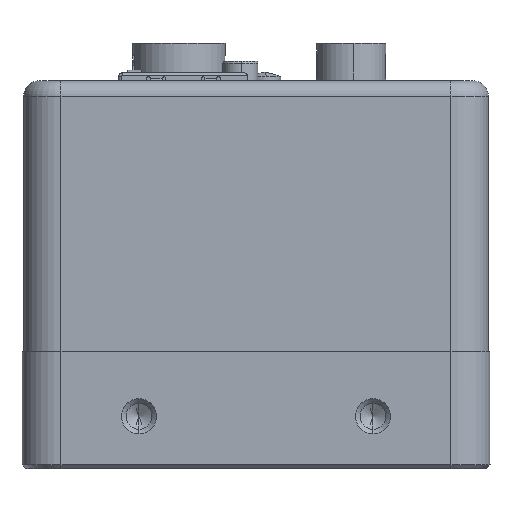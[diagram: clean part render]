
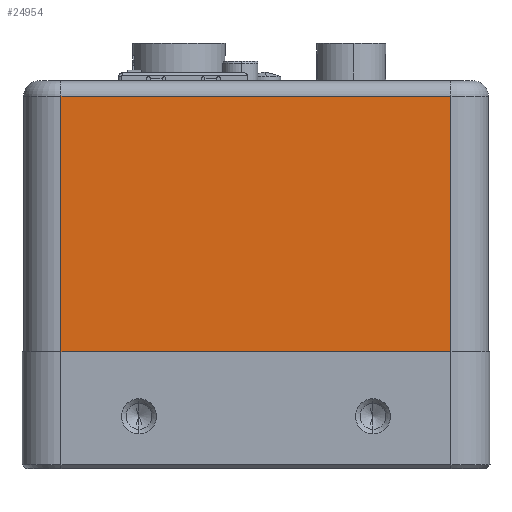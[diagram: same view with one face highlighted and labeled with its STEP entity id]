
A CAD part, left-side view. The second image highlights one B-rep face of the part: STEP entity #24954.
In plain terms, the highlighted planar face has unit normal (-1, 0, 0).
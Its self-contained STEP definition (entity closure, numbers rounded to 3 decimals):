
#512 = DIRECTION ( 'NONE',  ( 0., 0., 1. ) ) ;
#1231 = PLANE ( 'NONE',  #37004 ) ;
#3538 = LINE ( 'NONE', #40587, #37722 ) ;
#4587 = DIRECTION ( 'NONE',  ( 0., 0., -1. ) ) ;
#5509 = EDGE_CURVE ( 'NONE', #41247, #9227, #3538, .T. ) ;
#5988 = CARTESIAN_POINT ( 'NONE',  ( -27.511, 18.557, 29.652 ) ) ;
#7371 = CARTESIAN_POINT ( 'NONE',  ( -27.511, -31.443, 29.652 ) ) ;
#7544 = DIRECTION ( 'NONE',  ( 0., 1., 0. ) ) ;
#9227 = VERTEX_POINT ( 'NONE', #5988 ) ;
#9481 = EDGE_CURVE ( 'NONE', #21517, #29189, #31222, .T. ) ;
#11199 = DIRECTION ( 'NONE',  ( 0., 1., 0. ) ) ;
#13600 = VECTOR ( 'NONE', #20692, 1000. ) ;
#15573 = EDGE_LOOP ( 'NONE', ( #22269, #29682, #31777, #18696 ) ) ;
#18696 = ORIENTED_EDGE ( 'NONE', *, *, #9481, .F. ) ;
#20692 = DIRECTION ( 'NONE',  ( 0., 1., 0. ) ) ;
#21517 = VERTEX_POINT ( 'NONE', #33037 ) ;
#22269 = ORIENTED_EDGE ( 'NONE', *, *, #24843, .T. ) ;
#23292 = LINE ( 'NONE', #40183, #37802 ) ;
#24840 = FACE_OUTER_BOUND ( 'NONE', #15573, .T. ) ;
#24843 = EDGE_CURVE ( 'NONE', #21517, #41247, #23292, .T. ) ;
#24954 = ADVANCED_FACE ( 'NONE', ( #24840 ), #1231, .F. ) ;
#25244 = LINE ( 'NONE', #37592, #30950 ) ;
#26039 = EDGE_CURVE ( 'NONE', #9227, #29189, #25244, .T. ) ;
#29189 = VERTEX_POINT ( 'NONE', #32091 ) ;
#29682 = ORIENTED_EDGE ( 'NONE', *, *, #5509, .T. ) ;
#30950 = VECTOR ( 'NONE', #4587, 1000. ) ;
#31041 = DIRECTION ( 'NONE',  ( 1., 0., 0. ) ) ;
#31222 = LINE ( 'NONE', #37371, #13600 ) ;
#31777 = ORIENTED_EDGE ( 'NONE', *, *, #26039, .T. ) ;
#32091 = CARTESIAN_POINT ( 'NONE',  ( -27.511, 18.557, -3.064 ) ) ;
#33037 = CARTESIAN_POINT ( 'NONE',  ( -27.511, -31.443, -3.064 ) ) ;
#34225 = CARTESIAN_POINT ( 'NONE',  ( -27.511, -6.443, 26.652 ) ) ;
#37004 = AXIS2_PLACEMENT_3D ( 'NONE', #34225, #31041, #11199 ) ;
#37371 = CARTESIAN_POINT ( 'NONE',  ( -27.511, -31.443, -3.064 ) ) ;
#37592 = CARTESIAN_POINT ( 'NONE',  ( -27.511, 18.557, 26.652 ) ) ;
#37722 = VECTOR ( 'NONE', #7544, 1000. ) ;
#37802 = VECTOR ( 'NONE', #512, 1000. ) ;
#40183 = CARTESIAN_POINT ( 'NONE',  ( -27.511, -31.443, 26.652 ) ) ;
#40587 = CARTESIAN_POINT ( 'NONE',  ( -27.511, -6.443, 29.652 ) ) ;
#41247 = VERTEX_POINT ( 'NONE', #7371 ) ;
